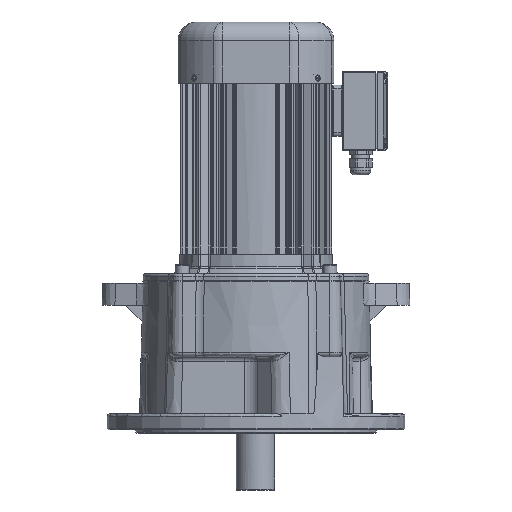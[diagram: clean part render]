
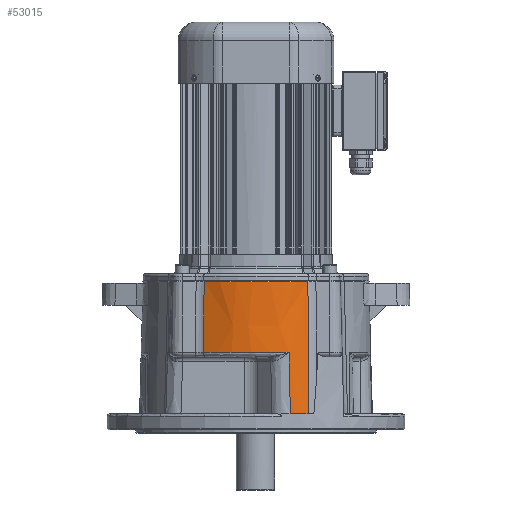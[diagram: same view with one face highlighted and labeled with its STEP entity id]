
A CAD part, front view. The second image highlights one B-rep face of the part: STEP entity #53015.
In plain terms, the highlighted free-form (B-spline) face has degree [3, 3] with [7, 4] control points.
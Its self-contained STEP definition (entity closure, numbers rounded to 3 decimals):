
#9443=FACE_OUTER_BOUND('',#12708,.T.);
#12708=EDGE_LOOP('',(#38927,#38928,#38929,#38930,#38931,#38932,#38933,#38934));
#16030=CIRCLE('',#57327,133.);
#18328=B_SPLINE_CURVE_WITH_KNOTS('',3,(#91333,#91334,#91335,#91336,#91337,
#91338,#91339,#91340),.UNSPECIFIED.,.F.,.F.,(4,1,1,1,1,4),(0.471,
3.999,5.762,7.526,11.054,12.818),
 .UNSPECIFIED.);
#18399=B_SPLINE_CURVE_WITH_KNOTS('',3,(#92375,#92376,#92377,#92378),
 .UNSPECIFIED.,.F.,.F.,(4,4),(7.015,15.105),
 .UNSPECIFIED.);
#18400=B_SPLINE_CURVE_WITH_KNOTS('',3,(#92380,#92381,#92382,#92383,#92384,
#92385,#92386,#92387,#92388),.UNSPECIFIED.,.F.,.F.,(4,1,1,1,1,1,4),(-9.604,
-8.232,-5.488,-4.116,-2.744,
-1.372,0.),.UNSPECIFIED.);
#18401=B_SPLINE_CURVE_WITH_KNOTS('',3,(#92390,#92391,#92392,#92393),
 .UNSPECIFIED.,.F.,.F.,(4,4),(8.39,8.904),
 .UNSPECIFIED.);
#18402=B_SPLINE_CURVE_WITH_KNOTS('',3,(#92395,#92396,#92397,#92398),
 .UNSPECIFIED.,.F.,.F.,(4,4),(-15.406,-8.904),
 .UNSPECIFIED.);
#18403=B_SPLINE_CURVE_WITH_KNOTS('',3,(#92402,#92403,#92404,#92405),
 .UNSPECIFIED.,.F.,.F.,(4,4),(-0.966,-0.938),
 .UNSPECIFIED.);
#18404=B_SPLINE_CURVE_WITH_KNOTS('',3,(#92406,#92407,#92408,#92409),
 .UNSPECIFIED.,.F.,.F.,(4,4),(0.3,15.405),
 .UNSPECIFIED.);
#21878=VERTEX_POINT('',#91319);
#21881=VERTEX_POINT('',#91331);
#22017=VERTEX_POINT('',#92374);
#22018=VERTEX_POINT('',#92379);
#22019=VERTEX_POINT('',#92389);
#22020=VERTEX_POINT('',#92394);
#22021=VERTEX_POINT('',#92399);
#22022=VERTEX_POINT('',#92401);
#27860=EDGE_CURVE('',#21881,#21878,#18328,.T.);
#28051=EDGE_CURVE('',#22017,#21881,#18399,.T.);
#28052=EDGE_CURVE('',#22018,#22017,#18400,.T.);
#28053=EDGE_CURVE('',#22018,#22019,#18401,.T.);
#28054=EDGE_CURVE('',#22020,#22019,#18402,.T.);
#28055=EDGE_CURVE('',#22020,#22021,#16030,.T.);
#28056=EDGE_CURVE('',#22022,#22021,#18403,.T.);
#28057=EDGE_CURVE('',#21878,#22022,#18404,.T.);
#38927=ORIENTED_EDGE('',*,*,#27860,.F.);
#38928=ORIENTED_EDGE('',*,*,#28051,.F.);
#38929=ORIENTED_EDGE('',*,*,#28052,.F.);
#38930=ORIENTED_EDGE('',*,*,#28053,.T.);
#38931=ORIENTED_EDGE('',*,*,#28054,.F.);
#38932=ORIENTED_EDGE('',*,*,#28055,.T.);
#38933=ORIENTED_EDGE('',*,*,#28056,.F.);
#38934=ORIENTED_EDGE('',*,*,#28057,.F.);
#48157=B_SPLINE_SURFACE_WITH_KNOTS('',3,3,((#92346,#92347,#92348,#92349),
(#92350,#92351,#92352,#92353),(#92354,#92355,#92356,#92357),(#92358,#92359,
#92360,#92361),(#92362,#92363,#92364,#92365),(#92366,#92367,#92368,#92369),
(#92370,#92371,#92372,#92373)),.UNSPECIFIED.,.F.,.F.,.F.,(4,1,1,1,4),(4,
4),(0.035,0.301,0.434,0.7,
0.966),(0.,0.981),.UNSPECIFIED.);
#53015=ADVANCED_FACE('',(#9443),#48157,.T.);
#57327=AXIS2_PLACEMENT_3D('',#92400,#66508,#66509);
#66508=DIRECTION('center_axis',(0.,0.,1.));
#66509=DIRECTION('ref_axis',(-0.484,-0.875,0.));
#91319=CARTESIAN_POINT('',(49.963,-147.394,127.505));
#91331=CARTESIAN_POINT('',(-68.588,-147.394,127.505));
#91333=CARTESIAN_POINT('Ctrl Pts',(-68.588,-147.394,
127.505));
#91334=CARTESIAN_POINT('Ctrl Pts',(-58.157,-152.786,
127.505));
#91335=CARTESIAN_POINT('Ctrl Pts',(-41.503,-158.699,127.505));
#91336=CARTESIAN_POINT('Ctrl Pts',(-18.142,-161.908,
127.505));
#91337=CARTESIAN_POINT('Ctrl Pts',(5.345,-161.917,127.505));
#91338=CARTESIAN_POINT('Ctrl Pts',(28.59,-157.103,127.505));
#91339=CARTESIAN_POINT('Ctrl Pts',(44.745,-150.091,127.505));
#91340=CARTESIAN_POINT('Ctrl Pts',(49.963,-147.394,127.505));
#92346=CARTESIAN_POINT('Ctrl Pts',(-69.594,-151.286,
-23.496));
#92347=CARTESIAN_POINT('Ctrl Pts',(-69.279,-149.978,26.838));
#92348=CARTESIAN_POINT('Ctrl Pts',(-68.964,-148.67,77.171));
#92349=CARTESIAN_POINT('Ctrl Pts',(-68.649,-147.362,127.505));
#92350=CARTESIAN_POINT('Ctrl Pts',(-58.967,-156.69,
-23.496));
#92351=CARTESIAN_POINT('Ctrl Pts',(-58.716,-155.381,
26.838));
#92352=CARTESIAN_POINT('Ctrl Pts',(-58.466,-154.072,
77.171));
#92353=CARTESIAN_POINT('Ctrl Pts',(-58.215,-152.763,
127.505));
#92354=CARTESIAN_POINT('Ctrl Pts',(-41.93,-162.635,
-23.496));
#92355=CARTESIAN_POINT('Ctrl Pts',(-41.77,-161.327,
26.838));
#92356=CARTESIAN_POINT('Ctrl Pts',(-41.611,-160.019,
77.171));
#92357=CARTESIAN_POINT('Ctrl Pts',(-41.451,-158.711,
127.505));
#92358=CARTESIAN_POINT('Ctrl Pts',(-12.324,-166.634,
-23.496));
#92359=CARTESIAN_POINT('Ctrl Pts',(-12.31,-165.327,26.838));
#92360=CARTESIAN_POINT('Ctrl Pts',(-12.296,-164.02,
77.171));
#92361=CARTESIAN_POINT('Ctrl Pts',(-12.282,-162.713,
127.505));
#92362=CARTESIAN_POINT('Ctrl Pts',(17.683,-164.611,-23.496));
#92363=CARTESIAN_POINT('Ctrl Pts',(17.554,-163.303,26.838));
#92364=CARTESIAN_POINT('Ctrl Pts',(17.425,-161.995,77.171));
#92365=CARTESIAN_POINT('Ctrl Pts',(17.295,-160.687,127.505));
#92366=CARTESIAN_POINT('Ctrl Pts',(40.397,-156.667,-23.496));
#92367=CARTESIAN_POINT('Ctrl Pts',(40.146,-155.359,26.838));
#92368=CARTESIAN_POINT('Ctrl Pts',(39.895,-154.05,77.171));
#92369=CARTESIAN_POINT('Ctrl Pts',(39.644,-152.741,127.505));
#92370=CARTESIAN_POINT('Ctrl Pts',(51.022,-151.259,-23.496));
#92371=CARTESIAN_POINT('Ctrl Pts',(50.706,-149.951,26.838));
#92372=CARTESIAN_POINT('Ctrl Pts',(50.391,-148.643,77.171));
#92373=CARTESIAN_POINT('Ctrl Pts',(50.076,-147.335,127.505));
#92374=CARTESIAN_POINT('',(-69.155,-149.464,46.634));
#92375=CARTESIAN_POINT('Ctrl Pts',(-69.155,-149.464,
46.634));
#92376=CARTESIAN_POINT('Ctrl Pts',(-68.966,-148.774,
73.591));
#92377=CARTESIAN_POINT('Ctrl Pts',(-68.777,-148.084,
100.548));
#92378=CARTESIAN_POINT('Ctrl Pts',(-68.588,-147.394,
127.505));
#92379=CARTESIAN_POINT('',(28.492,-158.344,46.634));
#92380=CARTESIAN_POINT('Ctrl Pts',(28.492,-158.344,46.634));
#92381=CARTESIAN_POINT('Ctrl Pts',(23.934,-159.716,46.634));
#92382=CARTESIAN_POINT('Ctrl Pts',(9.968,-163.114,46.634));
#92383=CARTESIAN_POINT('Ctrl Pts',(-9.353,-164.519,
46.634));
#92384=CARTESIAN_POINT('Ctrl Pts',(-28.307,-162.788,
46.634));
#92385=CARTESIAN_POINT('Ctrl Pts',(-42.441,-159.933,
46.634));
#92386=CARTESIAN_POINT('Ctrl Pts',(-56.18,-155.532,46.634));
#92387=CARTESIAN_POINT('Ctrl Pts',(-64.924,-151.633,
46.634));
#92388=CARTESIAN_POINT('Ctrl Pts',(-69.155,-149.464,
46.634));
#92389=CARTESIAN_POINT('',(28.595,-158.452,41.504));
#92390=CARTESIAN_POINT('Ctrl Pts',(28.492,-158.344,46.634));
#92391=CARTESIAN_POINT('Ctrl Pts',(28.526,-158.38,44.924));
#92392=CARTESIAN_POINT('Ctrl Pts',(28.561,-158.416,43.214));
#92393=CARTESIAN_POINT('Ctrl Pts',(28.595,-158.452,41.504));
#92394=CARTESIAN_POINT('',(29.897,-159.82,-23.496));
#92395=CARTESIAN_POINT('Ctrl Pts',(29.897,-159.82,-23.496));
#92396=CARTESIAN_POINT('Ctrl Pts',(29.464,-159.365,-1.829));
#92397=CARTESIAN_POINT('Ctrl Pts',(29.03,-158.909,19.838));
#92398=CARTESIAN_POINT('Ctrl Pts',(28.595,-158.452,41.504));
#92399=CARTESIAN_POINT('',(47.748,-152.869,-23.496));
#92400=CARTESIAN_POINT('Origin',(-9.313,-32.731,-23.496));
#92401=CARTESIAN_POINT('',(51.022,-151.259,-23.496));
#92402=CARTESIAN_POINT('Ctrl Pts',(51.022,-151.259,-23.496));
#92403=CARTESIAN_POINT('Ctrl Pts',(49.938,-151.81,-23.496));
#92404=CARTESIAN_POINT('Ctrl Pts',(48.847,-152.347,-23.496));
#92405=CARTESIAN_POINT('Ctrl Pts',(47.748,-152.869,-23.496));
#92406=CARTESIAN_POINT('Ctrl Pts',(49.963,-147.394,127.505));
#92407=CARTESIAN_POINT('Ctrl Pts',(50.316,-148.682,77.171));
#92408=CARTESIAN_POINT('Ctrl Pts',(50.669,-149.97,26.838));
#92409=CARTESIAN_POINT('Ctrl Pts',(51.022,-151.259,-23.496));
